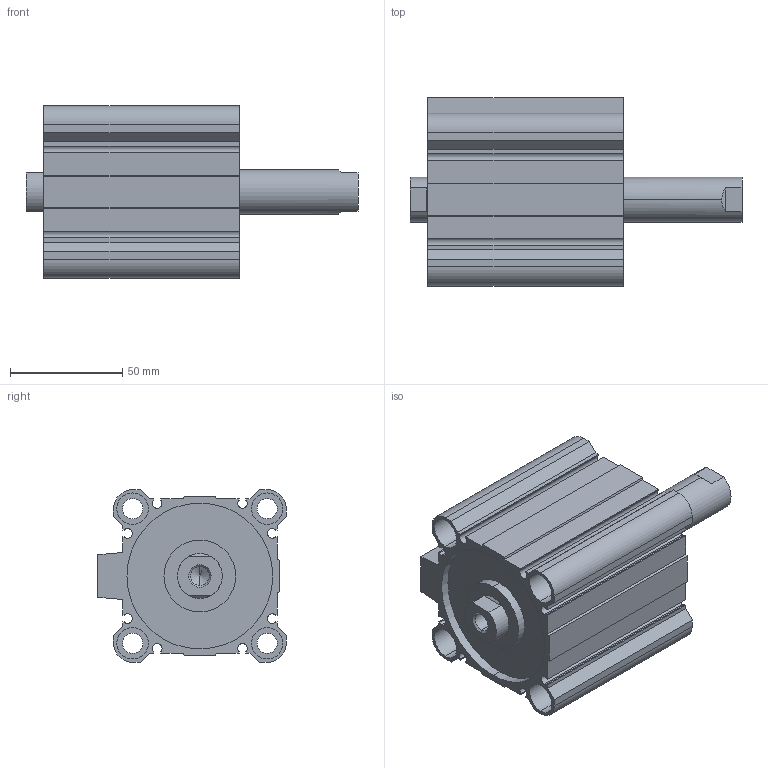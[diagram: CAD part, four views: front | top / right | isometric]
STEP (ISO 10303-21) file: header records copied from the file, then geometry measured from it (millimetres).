
FILE_DESCRIPTION (( 'STEP AP203' ), '1' );
FILE_NAME ('CCMB63-45F-P.STEP', '2020-08-05T11:47:43', ( '' ), ( '' ), 'SwSTEP 2.0', 'SolidWorks 2019', '' );
FILE_SCHEMA (( 'CONFIG_CONTROL_DESIGN' ));
Length unit declared in the file: millimetre
Products named in the file (1): CCMB63-45F-P
Bounding box: 148 x 84 x 77 mm (x, y, z)
Volume: 292901 mm3; surface area: 97572.9 mm2
Topology: 2 solids, 2 shells, 176 faces, 450 edges, 294 vertices
Faces by surface type: plane 90, cylinder 74, cone 12
Entity records: 5421 total; most frequent: DIRECTION 948, CARTESIAN_POINT 941, ORIENTED_EDGE 892, EDGE_CURVE 446, AXIS2_PLACEMENT_3D 333, VERTEX_POINT 294, LINE 282, VECTOR 282
